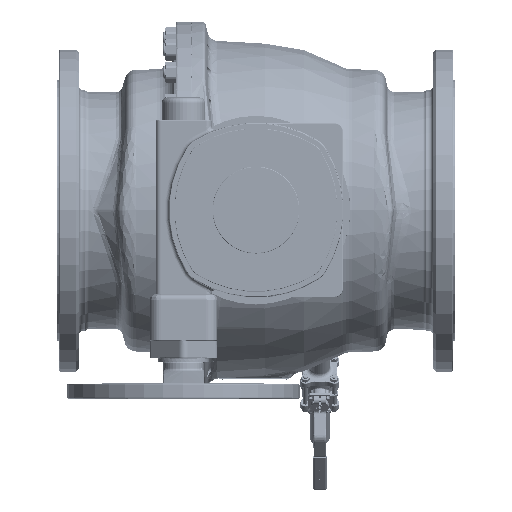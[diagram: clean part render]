
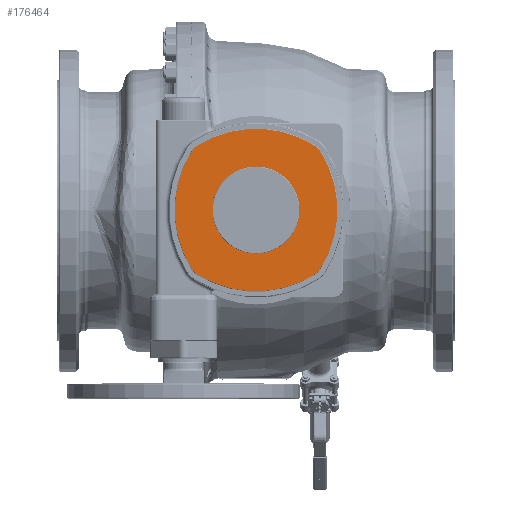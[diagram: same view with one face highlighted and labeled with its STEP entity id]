
A CAD part, top view. The second image highlights one B-rep face of the part: STEP entity #176464.
In plain terms, the highlighted planar face has unit normal (0, 0, 1).
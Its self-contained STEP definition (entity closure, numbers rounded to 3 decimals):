
#57163=CARTESIAN_POINT('',(0.,-50.,616.));
#57164=DIRECTION('',(0.,0.,-1.));
#57165=DIRECTION('',(-0.533,0.846,0.));
#57166=AXIS2_PLACEMENT_3D('',#57163,#57164,#57165);
#57177=CARTESIAN_POINT('',(85.34,85.34,616.));
#57178=DIRECTION('',(0.,0.,1.));
#57179=DIRECTION('',(0.846,0.533,0.));
#57180=AXIS2_PLACEMENT_3D('',#57177,#57178,#57179);
#57191=CARTESIAN_POINT('',(-50.,0.,616.));
#57192=DIRECTION('',(0.,0.,-1.));
#57193=DIRECTION('',(0.846,0.533,0.));
#57194=AXIS2_PLACEMENT_3D('',#57191,#57192,#57193);
#57205=CARTESIAN_POINT('',(85.34,-85.34,616.));
#57206=DIRECTION('',(0.,0.,1.));
#57207=DIRECTION('',(0.533,-0.846,0.));
#57208=AXIS2_PLACEMENT_3D('',#57205,#57206,#57207);
#57219=CARTESIAN_POINT('',(0.,50.,616.));
#57220=DIRECTION('',(0.,0.,-1.));
#57221=DIRECTION('',(0.533,-0.846,0.));
#57222=AXIS2_PLACEMENT_3D('',#57219,#57220,#57221);
#57233=CARTESIAN_POINT('',(-85.34,-85.34,616.));
#57234=DIRECTION('',(0.,0.,1.));
#57235=DIRECTION('',(-0.846,-0.533,0.));
#57236=AXIS2_PLACEMENT_3D('',#57233,#57234,#57235);
#57247=CARTESIAN_POINT('',(50.,0.,616.));
#57248=DIRECTION('',(0.,0.,-1.));
#57249=DIRECTION('',(-0.846,-0.533,0.));
#57250=AXIS2_PLACEMENT_3D('',#57247,#57248,#57249);
#57261=CARTESIAN_POINT('',(-85.34,85.34,616.));
#57262=DIRECTION('',(0.,0.,1.));
#57263=DIRECTION('',(-0.533,0.846,0.));
#57264=AXIS2_PLACEMENT_3D('',#57261,#57262,#57263);
#57266=CARTESIAN_POINT('',(0.,0.,616.));
#57267=DIRECTION('',(0.,0.,1.));
#57268=DIRECTION('',(-1.,0.,0.));
#57269=AXIS2_PLACEMENT_3D('',#57266,#57267,#57268);
#57271=CARTESIAN_POINT('',(0.,0.,616.));
#57272=DIRECTION('',(0.,0.,1.));
#57273=DIRECTION('',(1.,0.,0.));
#57274=AXIS2_PLACEMENT_3D('',#57271,#57272,#57273);
#68215=CARTESIAN_POINT('',(-75.,0.,616.));
#68216=CARTESIAN_POINT('',(75.,0.,616.));
#68217=VERTEX_POINT('',#68215);
#68218=VERTEX_POINT('',#68216);
#68219=CARTESIAN_POINT('',(101.342,-110.717,616.));
#68220=CARTESIAN_POINT('',(110.717,-101.342,616.));
#68221=VERTEX_POINT('',#68219);
#68222=VERTEX_POINT('',#68220);
#68223=CARTESIAN_POINT('',(110.717,101.342,616.));
#68224=VERTEX_POINT('',#68223);
#68225=CARTESIAN_POINT('',(101.342,110.717,616.));
#68226=VERTEX_POINT('',#68225);
#68227=CARTESIAN_POINT('',(-101.342,110.717,616.));
#68228=VERTEX_POINT('',#68227);
#68229=CARTESIAN_POINT('',(-110.717,101.342,616.));
#68230=VERTEX_POINT('',#68229);
#68231=CARTESIAN_POINT('',(-110.717,-101.342,616.));
#68232=VERTEX_POINT('',#68231);
#68233=CARTESIAN_POINT('',(-101.342,-110.717,616.));
#68234=VERTEX_POINT('',#68233);
#176443=CARTESIAN_POINT('',(0.,0.,616.));
#176444=DIRECTION('',(0.,0.,1.));
#176445=DIRECTION('',(1.,0.,0.));
#176446=AXIS2_PLACEMENT_3D('',#176443,#176444,#176445);
#176447=PLANE('',#176446);
#176448=ORIENTED_EDGE('',*,*,#176382,.F.);
#176449=ORIENTED_EDGE('',*,*,#176396,.T.);
#176450=ORIENTED_EDGE('',*,*,#176410,.F.);
#176451=ORIENTED_EDGE('',*,*,#176424,.T.);
#176452=ORIENTED_EDGE('',*,*,#176437,.F.);
#176453=ORIENTED_EDGE('',*,*,#176339,.T.);
#176454=ORIENTED_EDGE('',*,*,#176354,.F.);
#176455=ORIENTED_EDGE('',*,*,#176368,.T.);
#176456=EDGE_LOOP('',(#176448,#176449,#176450,#176451,#176452,#176453,#176454,
#176455));
#176457=FACE_OUTER_BOUND('',#176456,.F.);
#176459=ORIENTED_EDGE('',*,*,#176458,.T.);
#176461=ORIENTED_EDGE('',*,*,#176460,.T.);
#176462=EDGE_LOOP('',(#176459,#176461));
#176463=FACE_BOUND('',#176462,.F.);
#176464=ADVANCED_FACE('',(#176457,#176463),#176447,.T.);
#57167=CIRCLE('',#57166,190.);
#57181=CIRCLE('',#57180,30.);
#57195=CIRCLE('',#57194,190.);
#57209=CIRCLE('',#57208,30.);
#57223=CIRCLE('',#57222,190.);
#57237=CIRCLE('',#57236,30.);
#57251=CIRCLE('',#57250,190.);
#57265=CIRCLE('',#57264,30.);
#57270=CIRCLE('',#57269,75.);
#57275=CIRCLE('',#57274,75.);
#176339=EDGE_CURVE('',#68228,#68226,#57167,.T.);
#176354=EDGE_CURVE('',#68224,#68226,#57181,.T.);
#176368=EDGE_CURVE('',#68224,#68222,#57195,.T.);
#176382=EDGE_CURVE('',#68221,#68222,#57209,.T.);
#176396=EDGE_CURVE('',#68221,#68234,#57223,.T.);
#176410=EDGE_CURVE('',#68232,#68234,#57237,.T.);
#176424=EDGE_CURVE('',#68232,#68230,#57251,.T.);
#176437=EDGE_CURVE('',#68228,#68230,#57265,.T.);
#176458=EDGE_CURVE('',#68217,#68218,#57270,.T.);
#176460=EDGE_CURVE('',#68218,#68217,#57275,.T.);
